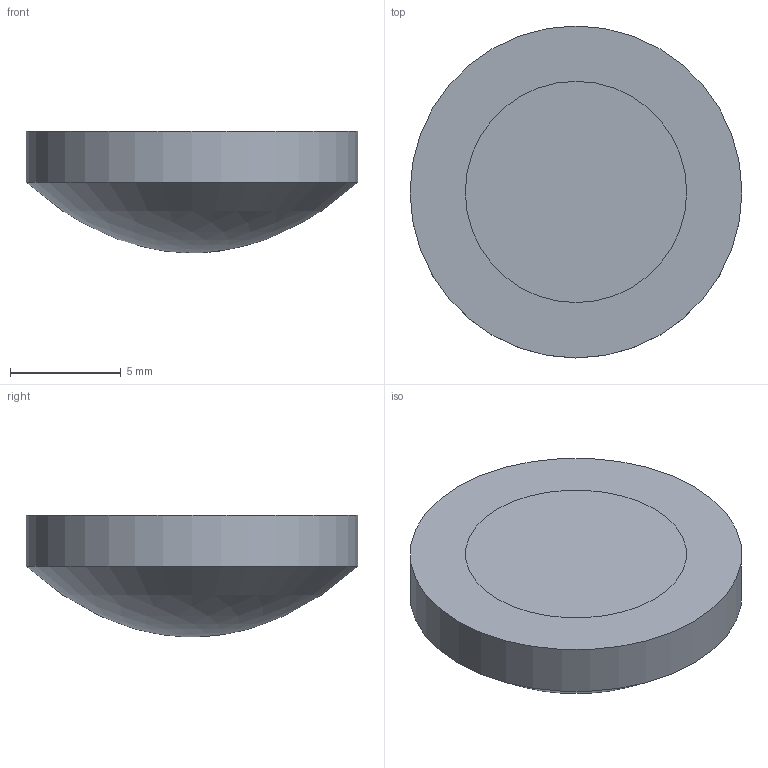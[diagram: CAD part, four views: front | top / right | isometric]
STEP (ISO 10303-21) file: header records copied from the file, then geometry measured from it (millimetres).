
FILE_DESCRIPTION(('STEP AP214'),'1');
FILE_NAME('T115-780.stp','2024-11-06T03:14:45',(' '),('ZEMAX'),'Spatial InterOp 3D',' ',' ');
FILE_SCHEMA(('AUTOMOTIVE_DESIGN { 1 0 10303 214 1 1 1 1 }'));
Length unit declared in the file: millimetre
Products named in the file (2): T115-780.zmx; surfaces 1,2
Assembly tree (1 placements, depth 2):
  T115-780.zmx
    surfaces 1,2
Bounding box: 15 x 15 x 5.5 mm (x, y, z)
Volume: 695 mm3; surface area: 492.1 mm2
Topology: 1 solids, 1 shells, 4 faces, 7 edges, 5 vertices
Faces by surface type: plane 2, revolution 1, cylinder 1
Full cylindrical faces by diameter (mm): 15 x1
Entity records: 197 total; most frequent: CARTESIAN_POINT 81, DIRECTION 19, AXIS2_PLACEMENT_3D 9, ORIENTED_EDGE 8, EDGE_LOOP 6, FACE_BOUND 5, VERTEX_POINT 5, DIMENSIONAL_EXPONENTS 4
